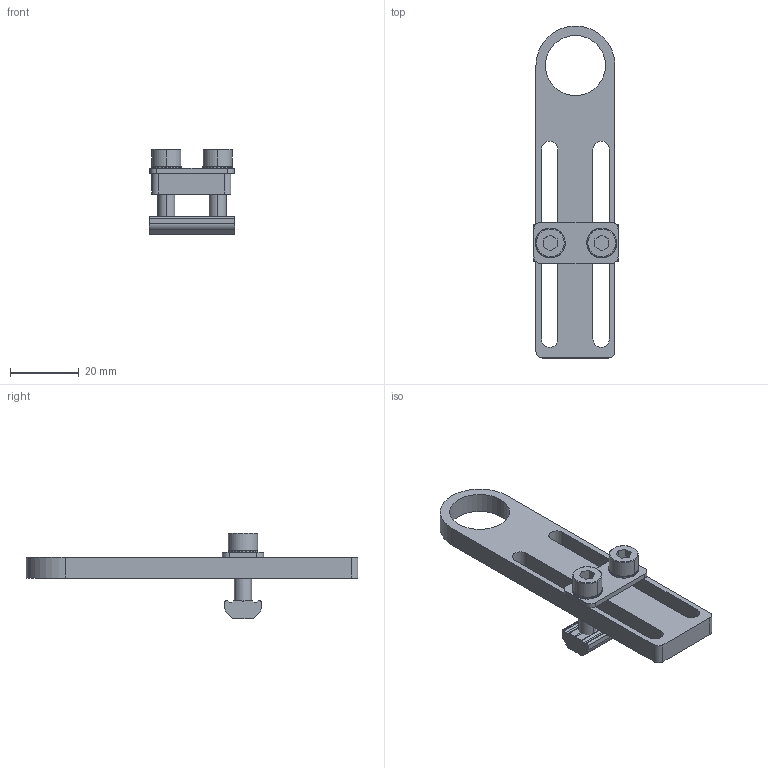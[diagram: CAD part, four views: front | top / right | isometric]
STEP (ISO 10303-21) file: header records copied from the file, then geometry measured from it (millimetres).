
FILE_DESCRIPTION (( 'STEP AP214' ), '1' );
FILE_NAME ('SMBE5-M2060.STEP', '2019-11-06T01:45:30', ( '微软用户' ), ( '微软中国' ), 'SwSTEP 2.0', 'SolidWorks 2016', '' );
FILE_SCHEMA (( 'AUTOMOTIVE_DESIGN' ));
Length unit declared in the file: millimetre
Products named in the file (1): SMBE5-M2060
Bounding box: 25 x 96.71 x 25 mm (x, y, z)
Volume: 10919.2 mm3; surface area: 8940.4 mm2
Topology: 7 solids, 7 shells, 510 faces, 1476 edges, 976 vertices
Faces by surface type: plane 447, cylinder 55, torus 4, cone 4
Entity records: 22716 total; most frequent: CARTESIAN_POINT 3155, ORIENTED_EDGE 2952, DIRECTION 2948, EDGE_CURVE 1476, AXIS2_PLACEMENT_3D 993, VERTEX_POINT 976, LINE 962, VECTOR 962
